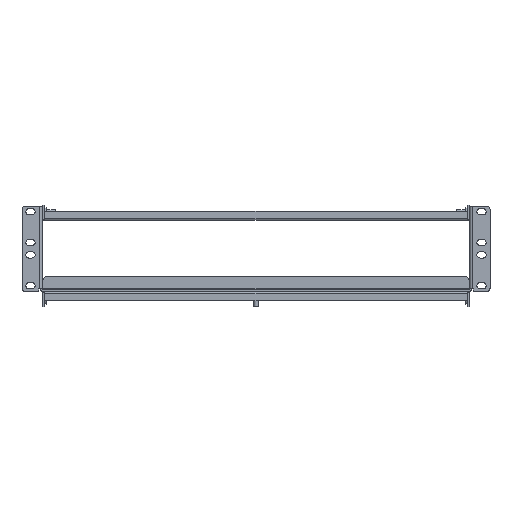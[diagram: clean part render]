
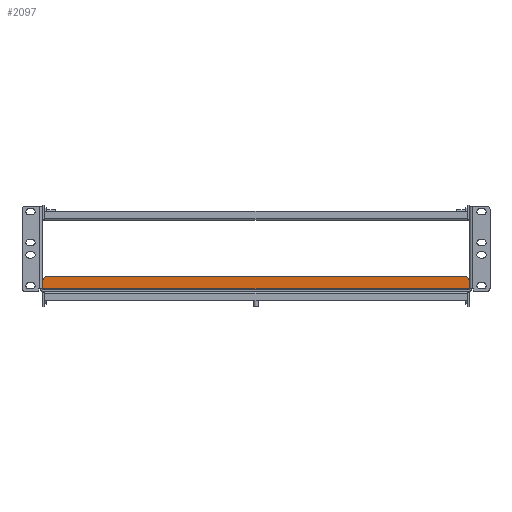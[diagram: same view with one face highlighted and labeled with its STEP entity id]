
A CAD part, front view. The second image highlights one B-rep face of the part: STEP entity #2097.
In plain terms, the highlighted planar face has unit normal (0, -1, 0).
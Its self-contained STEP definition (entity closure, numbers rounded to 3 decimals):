
#2097 = ADVANCED_FACE( '', ( #4901 ), #4902, .T. );
#4901 = FACE_OUTER_BOUND( '', #7445, .T. );
#4902 = PLANE( '', #7446 );
#7445 = EDGE_LOOP( '', ( #13756, #13757, #13758, #13759, #13760, #13761, #13762, #13763 ) );
#7446 = AXIS2_PLACEMENT_3D( '', #13764, #13765, #13766 );
#13756 = ORIENTED_EDGE( '', *, *, #18804, .F. );
#13757 = ORIENTED_EDGE( '', *, *, #17014, .T. );
#13758 = ORIENTED_EDGE( '', *, *, #18800, .F. );
#13759 = ORIENTED_EDGE( '', *, *, #18779, .T. );
#13760 = ORIENTED_EDGE( '', *, *, #18809, .F. );
#13761 = ORIENTED_EDGE( '', *, *, #18807, .T. );
#13762 = ORIENTED_EDGE( '', *, *, #18810, .F. );
#13763 = ORIENTED_EDGE( '', *, *, #17025, .T. );
#13764 = CARTESIAN_POINT( '', ( -219.505, 187.757, 1.587 ) );
#13765 = DIRECTION( '', ( 0., -1., 0. ) );
#13766 = DIRECTION( '', ( 0., 0., -1. ) );
#17014 = EDGE_CURVE( '', #20055, #20053, #20056, .T. );
#17025 = EDGE_CURVE( '', #20076, #20074, #20077, .T. );
#18779 = EDGE_CURVE( '', #23080, #23078, #23081, .T. );
#18800 = EDGE_CURVE( '', #23080, #20053, #23112, .T. );
#18804 = EDGE_CURVE( '', #20055, #20074, #23116, .T. );
#18807 = EDGE_CURVE( '', #23120, #23102, #23121, .T. );
#18809 = EDGE_CURVE( '', #23120, #23078, #23123, .T. );
#18810 = EDGE_CURVE( '', #20076, #23102, #23124, .T. );
#20053 = VERTEX_POINT( '', #24146 );
#20055 = VERTEX_POINT( '', #24149 );
#20056 = CIRCLE( '', #24150, 6.35 );
#20074 = VERTEX_POINT( '', #24174 );
#20076 = VERTEX_POINT( '', #24177 );
#20077 = CIRCLE( '', #24178, 1.397 );
#23078 = VERTEX_POINT( '', #28374 );
#23080 = VERTEX_POINT( '', #28377 );
#23081 = CIRCLE( '', #28378, 6.35 );
#23102 = VERTEX_POINT( '', #28440 );
#23112 = LINE( '', #28491, #28492 );
#23116 = LINE( '', #28498, #28499 );
#23120 = VERTEX_POINT( '', #28504 );
#23121 = CIRCLE( '', #28505, 1.397 );
#23123 = LINE( '', #28508, #28509 );
#23124 = LINE( '', #28510, #28511 );
#24146 = CARTESIAN_POINT( '', ( 214.069, 187.757, 15.875 ) );
#24149 = CARTESIAN_POINT( '', ( 220.419, 187.757, 9.525 ) );
#24150 = AXIS2_PLACEMENT_3D( '', #29680, #29681, #29682 );
#24174 = CARTESIAN_POINT( '', ( 220.419, 187.757, 2.963 ) );
#24177 = CARTESIAN_POINT( '', ( 219.878, 187.757, 2.743 ) );
#24178 = AXIS2_PLACEMENT_3D( '', #29699, #29700, #29701 );
#28374 = CARTESIAN_POINT( '', ( -220.419, 187.757, 9.525 ) );
#28377 = CARTESIAN_POINT( '', ( -214.069, 187.757, 15.875 ) );
#28378 = AXIS2_PLACEMENT_3D( '', #32692, #32693, #32694 );
#28440 = CARTESIAN_POINT( '', ( -219.878, 187.757, 2.743 ) );
#28491 = CARTESIAN_POINT( '', ( -219.505, 187.757, 15.875 ) );
#28492 = VECTOR( '', #32714, 1000. );
#28498 = CARTESIAN_POINT( '', ( 220.419, 187.757, 1.587 ) );
#28499 = VECTOR( '', #32720, 1000. );
#28504 = CARTESIAN_POINT( '', ( -220.419, 187.757, 2.963 ) );
#28505 = AXIS2_PLACEMENT_3D( '', #32725, #32726, #32727 );
#28508 = CARTESIAN_POINT( '', ( -220.419, 187.757, 1.587 ) );
#28509 = VECTOR( '', #32729, 1000. );
#28510 = CARTESIAN_POINT( '', ( 219.505, 187.757, 2.743 ) );
#28511 = VECTOR( '', #32730, 1000. );
#29680 = CARTESIAN_POINT( '', ( 214.069, 187.757, 9.525 ) );
#29681 = DIRECTION( '', ( 0., -1., 0. ) );
#29682 = DIRECTION( '', ( 0., 0., -1. ) );
#29699 = CARTESIAN_POINT( '', ( 220.663, 187.757, 1.587 ) );
#29700 = DIRECTION( '', ( 0., 1., 0. ) );
#29701 = DIRECTION( '', ( 1., 0., 0. ) );
#32692 = CARTESIAN_POINT( '', ( -214.069, 187.757, 9.525 ) );
#32693 = DIRECTION( '', ( 0., -1., 0. ) );
#32694 = DIRECTION( '', ( 0., 0., -1. ) );
#32714 = DIRECTION( '', ( 1., 0., 0. ) );
#32720 = DIRECTION( '', ( 0., 0., -1. ) );
#32725 = CARTESIAN_POINT( '', ( -220.663, 187.757, 1.587 ) );
#32726 = DIRECTION( '', ( 0., 1., 0. ) );
#32727 = DIRECTION( '', ( -1., 0., 0. ) );
#32729 = DIRECTION( '', ( 0., 0., 1. ) );
#32730 = DIRECTION( '', ( -1., 0., 0. ) );
